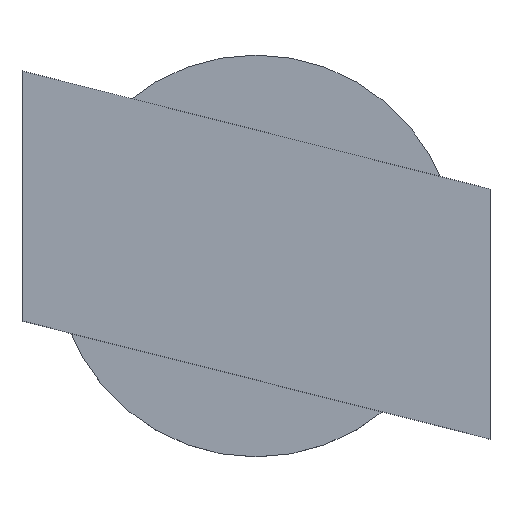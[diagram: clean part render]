
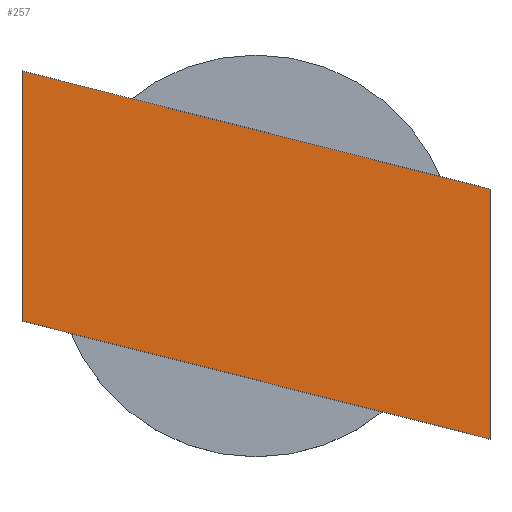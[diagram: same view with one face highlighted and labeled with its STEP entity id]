
A CAD part, top view. The second image highlights one B-rep face of the part: STEP entity #257.
In plain terms, the highlighted planar face has unit normal (0, 0, 1).
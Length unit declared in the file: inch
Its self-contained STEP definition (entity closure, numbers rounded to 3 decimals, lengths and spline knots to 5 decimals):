
#60=DIRECTION('',(-0.97,0.245,0.));
#61=VECTOR('',#60,0.4012);
#62=CARTESIAN_POINT('',(0.389,0.10964,0.2));
#63=LINE('',#62,#61);
#64=DIRECTION('',(0.,1.,0.));
#65=VECTOR('',#64,0.41564);
#66=CARTESIAN_POINT('',(0.389,-0.306,0.2));
#67=LINE('',#66,#65);
#68=DIRECTION('',(0.97,-0.245,0.));
#69=VECTOR('',#68,0.4012);
#70=CARTESIAN_POINT('',(0.,-0.20782,0.2));
#71=LINE('',#70,#69);
#72=DIRECTION('',(0.97,-0.245,0.));
#73=VECTOR('',#72,0.4012);
#74=CARTESIAN_POINT('',(-0.389,-0.10964,0.2));
#75=LINE('',#74,#73);
#76=DIRECTION('',(0.,-1.,0.));
#77=VECTOR('',#76,0.41564);
#78=CARTESIAN_POINT('',(-0.389,0.306,0.2));
#79=LINE('',#78,#77);
#80=DIRECTION('',(-0.97,0.245,0.));
#81=VECTOR('',#80,0.4012);
#82=CARTESIAN_POINT('',(0.,0.20782,0.2));
#83=LINE('',#82,#81);
#114=CARTESIAN_POINT('',(0.389,0.10964,0.2));
#115=CARTESIAN_POINT('',(0.,0.20782,0.2));
#116=VERTEX_POINT('',#114);
#117=VERTEX_POINT('',#115);
#118=CARTESIAN_POINT('',(-0.389,0.306,0.2));
#119=VERTEX_POINT('',#118);
#120=CARTESIAN_POINT('',(-0.389,-0.10964,0.2));
#121=VERTEX_POINT('',#120);
#122=CARTESIAN_POINT('',(0.,-0.20782,0.2));
#123=VERTEX_POINT('',#122);
#124=CARTESIAN_POINT('',(0.389,-0.306,0.2));
#125=VERTEX_POINT('',#124);
#244=CARTESIAN_POINT('',(0.,0.,0.2));
#245=DIRECTION('',(0.,0.,1.));
#246=DIRECTION('',(0.,-1.,0.));
#247=AXIS2_PLACEMENT_3D('',#244,#245,#246);
#248=PLANE('',#247);
#249=ORIENTED_EDGE('',*,*,#168,.F.);
#250=ORIENTED_EDGE('',*,*,#183,.F.);
#251=ORIENTED_EDGE('',*,*,#197,.F.);
#252=ORIENTED_EDGE('',*,*,#211,.F.);
#253=ORIENTED_EDGE('',*,*,#225,.F.);
#254=ORIENTED_EDGE('',*,*,#238,.F.);
#255=EDGE_LOOP('',(#249,#250,#251,#252,#253,#254));
#256=FACE_OUTER_BOUND('',#255,.F.);
#168=EDGE_CURVE('',#116,#117,#63,.T.);
#183=EDGE_CURVE('',#125,#116,#67,.T.);
#197=EDGE_CURVE('',#123,#125,#71,.T.);
#211=EDGE_CURVE('',#121,#123,#75,.T.);
#225=EDGE_CURVE('',#119,#121,#79,.T.);
#238=EDGE_CURVE('',#117,#119,#83,.T.);
#257=ADVANCED_FACE('',(#256),#248,.T.);
